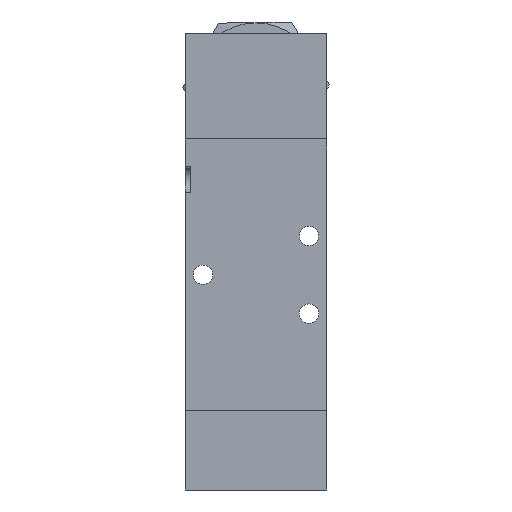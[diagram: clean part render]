
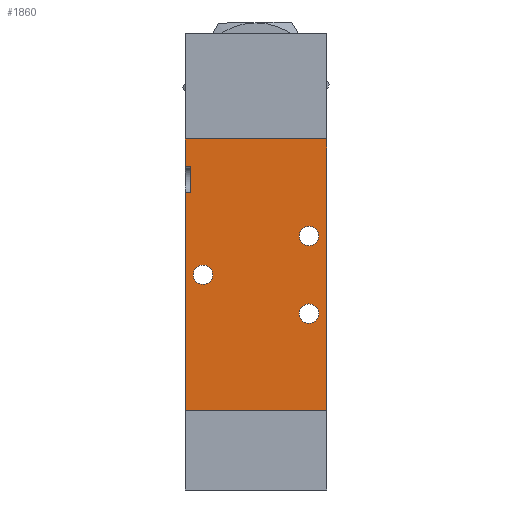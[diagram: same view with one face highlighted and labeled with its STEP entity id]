
A CAD part, left-side view. The second image highlights one B-rep face of the part: STEP entity #1860.
In plain terms, the highlighted planar face has unit normal (-1, 0, 0).
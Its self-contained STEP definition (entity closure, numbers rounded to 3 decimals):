
#1620=CARTESIAN_POINT('',(-14.75,18.5,23.375));
#1621=VERTEX_POINT('',#1620);
#1629=CARTESIAN_POINT('',(-14.75,20.,23.375));
#1630=VERTEX_POINT('',#1629);
#1637=CARTESIAN_POINT('',(-14.75,18.5,23.375));
#1638=DIRECTION('',(0.0,1.0,0.0));
#1639=VECTOR('',#1638,1.5);
#1640=LINE('',#1637,#1639);
#1641=EDGE_CURVE('',#1621,#1630,#1640,.T.);
#1651=CARTESIAN_POINT('',(-14.75,18.5,30.625));
#1652=VERTEX_POINT('',#1651);
#1659=CARTESIAN_POINT('',(-14.75,20.,30.625));
#1660=VERTEX_POINT('',#1659);
#1661=CARTESIAN_POINT('',(-14.75,20.,30.625));
#1662=DIRECTION('',(0.0,-1.0,0.0));
#1663=VECTOR('',#1662,1.5);
#1664=LINE('',#1661,#1663);
#1665=EDGE_CURVE('',#1660,#1652,#1664,.T.);
#1684=CARTESIAN_POINT('',(-14.75,18.5,30.625));
#1685=DIRECTION('',(0.0,0.0,-1.0));
#1686=VECTOR('',#1685,7.25);
#1687=LINE('',#1684,#1686);
#1688=EDGE_CURVE('',#1652,#1621,#1687,.T.);
#1779=CARTESIAN_POINT('',(-14.75,0.0,0.));
#1780=DIRECTION('',(1.0,0.0,0.0));
#1781=DIRECTION('',(0.0,0.0,-1.0));
#1782=AXIS2_PLACEMENT_3D('',#1779,#1780,#1781);
#1783=PLANE('',#1782);
#1784=ORIENTED_EDGE('',*,*,#1665,.T.);
#1785=ORIENTED_EDGE('',*,*,#1688,.T.);
#1786=ORIENTED_EDGE('',*,*,#1641,.T.);
#1787=CARTESIAN_POINT('',(-14.75,20.,-38.5));
#1788=VERTEX_POINT('',#1787);
#1789=CARTESIAN_POINT('',(-14.75,20.,-38.5));
#1790=DIRECTION('',(0.0,0.0,1.0));
#1791=VECTOR('',#1790,61.875);
#1792=LINE('',#1789,#1791);
#1793=EDGE_CURVE('',#1788,#1630,#1792,.T.);
#1794=ORIENTED_EDGE('',*,*,#1793,.F.);
#1795=CARTESIAN_POINT('',(-14.75,-20.0,-38.5));
#1796=VERTEX_POINT('',#1795);
#1797=CARTESIAN_POINT('',(-14.75,-20.0,-38.5));
#1798=DIRECTION('',(0.0,1.0,0.0));
#1799=VECTOR('',#1798,40.);
#1800=LINE('',#1797,#1799);
#1801=EDGE_CURVE('',#1796,#1788,#1800,.T.);
#1802=ORIENTED_EDGE('',*,*,#1801,.F.);
#1803=CARTESIAN_POINT('',(-14.75,-20.0,38.5));
#1804=VERTEX_POINT('',#1803);
#1805=CARTESIAN_POINT('',(-14.75,-20.0,38.5));
#1806=DIRECTION('',(0.0,0.0,-1.0));
#1807=VECTOR('',#1806,77.0);
#1808=LINE('',#1805,#1807);
#1809=EDGE_CURVE('',#1804,#1796,#1808,.T.);
#1810=ORIENTED_EDGE('',*,*,#1809,.F.);
#1811=CARTESIAN_POINT('',(-14.75,20.0,38.5));
#1812=VERTEX_POINT('',#1811);
#1813=CARTESIAN_POINT('',(-14.75,20.0,38.5));
#1814=DIRECTION('',(0.0,-1.0,0.0));
#1815=VECTOR('',#1814,40.0);
#1816=LINE('',#1813,#1815);
#1817=EDGE_CURVE('',#1812,#1804,#1816,.T.);
#1818=ORIENTED_EDGE('',*,*,#1817,.F.);
#1819=CARTESIAN_POINT('',(-14.75,20.0,30.625));
#1820=DIRECTION('',(0.0,0.0,1.0));
#1821=VECTOR('',#1820,7.875);
#1822=LINE('',#1819,#1821);
#1823=EDGE_CURVE('',#1660,#1812,#1822,.T.);
#1824=ORIENTED_EDGE('',*,*,#1823,.F.);
#1825=EDGE_LOOP('',(#1784,#1785,#1786,#1794,#1802,#1810,#1818,#1824));
#1826=FACE_OUTER_BOUND('',#1825,.T.);
#1827=CARTESIAN_POINT('',(-14.75,-12.25,11.0));
#1828=VERTEX_POINT('',#1827);
#1829=CARTESIAN_POINT('',(-14.75,-15.0,11.0));
#1830=DIRECTION('',(1.0,0.0,0.0));
#1831=DIRECTION('',(0.0,-1.0,0.0));
#1832=AXIS2_PLACEMENT_3D('',#1829,#1830,#1831);
#1833=CIRCLE('',#1832,2.75);
#1834=EDGE_CURVE('',#1828,#1828,#1833,.T.);
#1835=ORIENTED_EDGE('',*,*,#1834,.T.);
#1836=EDGE_LOOP('',(#1835));
#1837=FACE_BOUND('',#1836,.T.);
#1838=CARTESIAN_POINT('',(-14.75,-12.25,-11.0));
#1839=VERTEX_POINT('',#1838);
#1840=CARTESIAN_POINT('',(-14.75,-15.0,-11.0));
#1841=DIRECTION('',(1.0,0.0,0.0));
#1842=DIRECTION('',(0.0,-1.0,0.0));
#1843=AXIS2_PLACEMENT_3D('',#1840,#1841,#1842);
#1844=CIRCLE('',#1843,2.75);
#1845=EDGE_CURVE('',#1839,#1839,#1844,.T.);
#1846=ORIENTED_EDGE('',*,*,#1845,.T.);
#1847=EDGE_LOOP('',(#1846));
#1848=FACE_BOUND('',#1847,.T.);
#1849=CARTESIAN_POINT('',(-14.75,17.75,0.));
#1850=VERTEX_POINT('',#1849);
#1851=CARTESIAN_POINT('',(-14.75,15.0,0.));
#1852=DIRECTION('',(1.0,0.0,0.0));
#1853=DIRECTION('',(0.0,-1.0,0.0));
#1854=AXIS2_PLACEMENT_3D('',#1851,#1852,#1853);
#1855=CIRCLE('',#1854,2.75);
#1856=EDGE_CURVE('',#1850,#1850,#1855,.T.);
#1857=ORIENTED_EDGE('',*,*,#1856,.T.);
#1858=EDGE_LOOP('',(#1857));
#1859=FACE_BOUND('',#1858,.T.);
#1860=ADVANCED_FACE('',(#1826,#1837,#1848,#1859),#1783,.F.);
